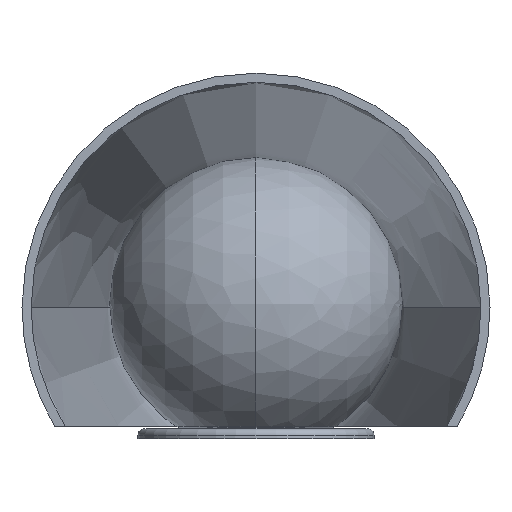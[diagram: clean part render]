
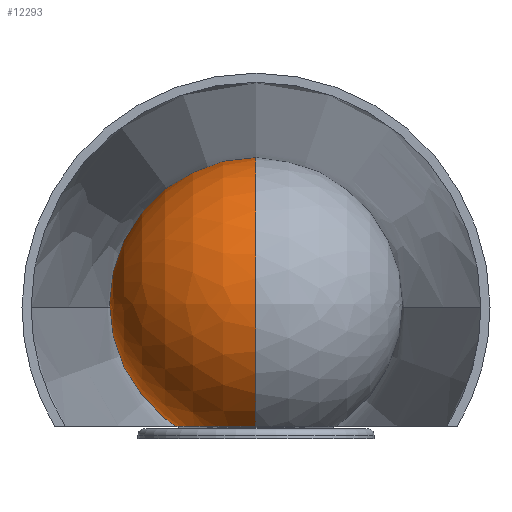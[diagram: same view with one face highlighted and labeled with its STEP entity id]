
A CAD part, front view. The second image highlights one B-rep face of the part: STEP entity #12293.
In plain terms, the highlighted spherical face has radius 65 mm.
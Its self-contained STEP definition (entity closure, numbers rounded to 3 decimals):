
#2309 = EDGE_CURVE ( 'NONE', #7448, #19155, #7300, .T. ) ;
#2474 = DIRECTION ( 'NONE',  ( 0., -1., 0. ) ) ;
#2486 = EDGE_CURVE ( 'NONE', #7448, #7191, #15344, .T. ) ;
#2553 = CARTESIAN_POINT ( 'NONE',  ( -79.057, -26.235, 119.463 ) ) ;
#2887 = CARTESIAN_POINT ( 'NONE',  ( -79.057, -26.235, 184.463 ) ) ;
#3267 = ORIENTED_EDGE ( 'NONE', *, *, #12447, .T. ) ;
#4204 = DIRECTION ( 'NONE',  ( 0., 0., 1. ) ) ;
#4549 = AXIS2_PLACEMENT_3D ( 'NONE', #20149, #4204, #2474 ) ;
#6208 = DIRECTION ( 'NONE',  ( -1., 0., 0. ) ) ;
#7191 = VERTEX_POINT ( 'NONE', #13776 ) ;
#7300 = CIRCLE ( 'NONE', #20029, 65. ) ;
#7448 = VERTEX_POINT ( 'NONE', #2887 ) ;
#7591 = CARTESIAN_POINT ( 'NONE',  ( -79.057, -26.235, 119.463 ) ) ;
#7828 = SPHERICAL_SURFACE ( 'NONE', #7853, 65. ) ;
#7853 = AXIS2_PLACEMENT_3D ( 'NONE', #7591, #21745, #16375 ) ;
#9185 = FACE_OUTER_BOUND ( 'NONE', #10975, .T. ) ;
#9365 = ORIENTED_EDGE ( 'NONE', *, *, #2486, .F. ) ;
#10472 = CARTESIAN_POINT ( 'NONE',  ( -79.057, 9.426, 65.119 ) ) ;
#10975 = EDGE_LOOP ( 'NONE', ( #9365, #16601, #3267 ) ) ;
#12293 = ADVANCED_FACE ( 'NONE', ( #9185 ), #7828, .T. ) ;
#12447 = EDGE_CURVE ( 'NONE', #19155, #7191, #19461, .T. ) ;
#13177 = DIRECTION ( 'NONE',  ( 0., -1., 0. ) ) ;
#13776 = CARTESIAN_POINT ( 'NONE',  ( -79.057, -61.895, 65.119 ) ) ;
#15344 = CIRCLE ( 'NONE', #18959, 65. ) ;
#16375 = DIRECTION ( 'NONE',  ( 0., -1., 0. ) ) ;
#16601 = ORIENTED_EDGE ( 'NONE', *, *, #2309, .T. ) ;
#18959 = AXIS2_PLACEMENT_3D ( 'NONE', #20353, #20695, #20468 ) ;
#19155 = VERTEX_POINT ( 'NONE', #10472 ) ;
#19461 = CIRCLE ( 'NONE', #4549, 35.661 ) ;
#20029 = AXIS2_PLACEMENT_3D ( 'NONE', #2553, #6208, #13177 ) ;
#20149 = CARTESIAN_POINT ( 'NONE',  ( -79.057, -26.235, 65.119 ) ) ;
#20353 = CARTESIAN_POINT ( 'NONE',  ( -79.057, -26.235, 119.463 ) ) ;
#20468 = DIRECTION ( 'NONE',  ( 0., 1., 0. ) ) ;
#20695 = DIRECTION ( 'NONE',  ( 1., 0., 0. ) ) ;
#21745 = DIRECTION ( 'NONE',  ( -1., 0., 0. ) ) ;
